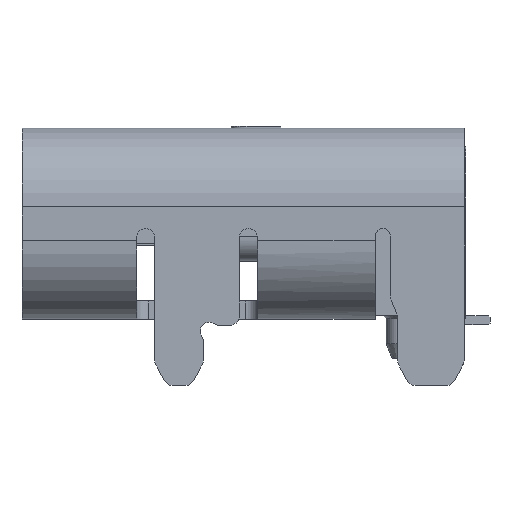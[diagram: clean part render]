
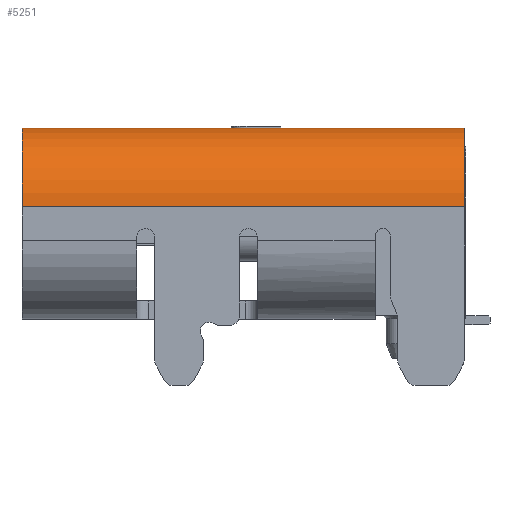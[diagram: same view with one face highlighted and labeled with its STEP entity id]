
A CAD part, left-side view. The second image highlights one B-rep face of the part: STEP entity #5251.
In plain terms, the highlighted cylindrical face has radius 1.3 mm (diameter 2.6 mm), a partial arc.
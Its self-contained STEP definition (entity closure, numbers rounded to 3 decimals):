
#2414 = DIRECTION ( 'NONE',  ( -1., 0., 0. ) ) ;
#2836 = CARTESIAN_POINT ( 'NONE',  ( -3.17, -7.32, -1.3 ) ) ;
#2845 = AXIS2_PLACEMENT_3D ( 'NONE', #3942, #12910, #21878 ) ;
#3084 = VERTEX_POINT ( 'NONE', #23346 ) ;
#3493 = ORIENTED_EDGE ( 'NONE', *, *, #22068, .F. ) ;
#3501 = CARTESIAN_POINT ( 'NONE',  ( -4.47, -7.32, -1.3 ) ) ;
#3942 = CARTESIAN_POINT ( 'NONE',  ( -3.17, -7.32, -1.3 ) ) ;
#5251 = ADVANCED_FACE ( 'NONE', ( #26282 ), #24087, .T. ) ;
#6889 = DIRECTION ( 'NONE',  ( 0., -1., 0. ) ) ;
#7050 = EDGE_CURVE ( 'NONE', #3084, #11900, #17061, .T. ) ;
#7119 = CARTESIAN_POINT ( 'NONE',  ( -3.17, 0., -1.3 ) ) ;
#7392 = DIRECTION ( 'NONE',  ( 0., -1., 0. ) ) ;
#7931 = VERTEX_POINT ( 'NONE', #18645 ) ;
#10467 = AXIS2_PLACEMENT_3D ( 'NONE', #7119, #23133, #12112 ) ;
#11191 = VECTOR ( 'NONE', #27312, 1000. ) ;
#11900 = VERTEX_POINT ( 'NONE', #25614 ) ;
#12112 = DIRECTION ( 'NONE',  ( -1., 0., 0. ) ) ;
#12910 = DIRECTION ( 'NONE',  ( 0., 1., 0. ) ) ;
#16421 = VECTOR ( 'NONE', #6889, 1000. ) ;
#17061 = CIRCLE ( 'NONE', #10467, 1.3 ) ;
#17452 = ORIENTED_EDGE ( 'NONE', *, *, #24593, .T. ) ;
#18360 = CARTESIAN_POINT ( 'NONE',  ( -3.17, -7.32, 0. ) ) ;
#18645 = CARTESIAN_POINT ( 'NONE',  ( -3.17, -7.32, 0. ) ) ;
#19188 = CIRCLE ( 'NONE', #20133, 1.3 ) ;
#20133 = AXIS2_PLACEMENT_3D ( 'NONE', #2836, #7392, #2414 ) ;
#21280 = EDGE_CURVE ( 'NONE', #7931, #3084, #22915, .T. ) ;
#21878 = DIRECTION ( 'NONE',  ( -1., 0., 0. ) ) ;
#22068 = EDGE_CURVE ( 'NONE', #7931, #22619, #19188, .T. ) ;
#22476 = CARTESIAN_POINT ( 'NONE',  ( -4.47, -7.32, -1.3 ) ) ;
#22619 = VERTEX_POINT ( 'NONE', #3501 ) ;
#22915 = LINE ( 'NONE', #18360, #11191 ) ;
#23133 = DIRECTION ( 'NONE',  ( 0., -1., 0. ) ) ;
#23346 = CARTESIAN_POINT ( 'NONE',  ( -3.17, 0., 0. ) ) ;
#24087 = CYLINDRICAL_SURFACE ( 'NONE', #2845, 1.3 ) ;
#24593 = EDGE_CURVE ( 'NONE', #11900, #22619, #27017, .T. ) ;
#24675 = ORIENTED_EDGE ( 'NONE', *, *, #7050, .T. ) ;
#25614 = CARTESIAN_POINT ( 'NONE',  ( -4.47, 0., -1.3 ) ) ;
#26282 = FACE_OUTER_BOUND ( 'NONE', #27533, .T. ) ;
#27017 = LINE ( 'NONE', #22476, #16421 ) ;
#27020 = ORIENTED_EDGE ( 'NONE', *, *, #21280, .T. ) ;
#27312 = DIRECTION ( 'NONE',  ( 0., 1., 0. ) ) ;
#27533 = EDGE_LOOP ( 'NONE', ( #3493, #27020, #24675, #17452 ) ) ;
